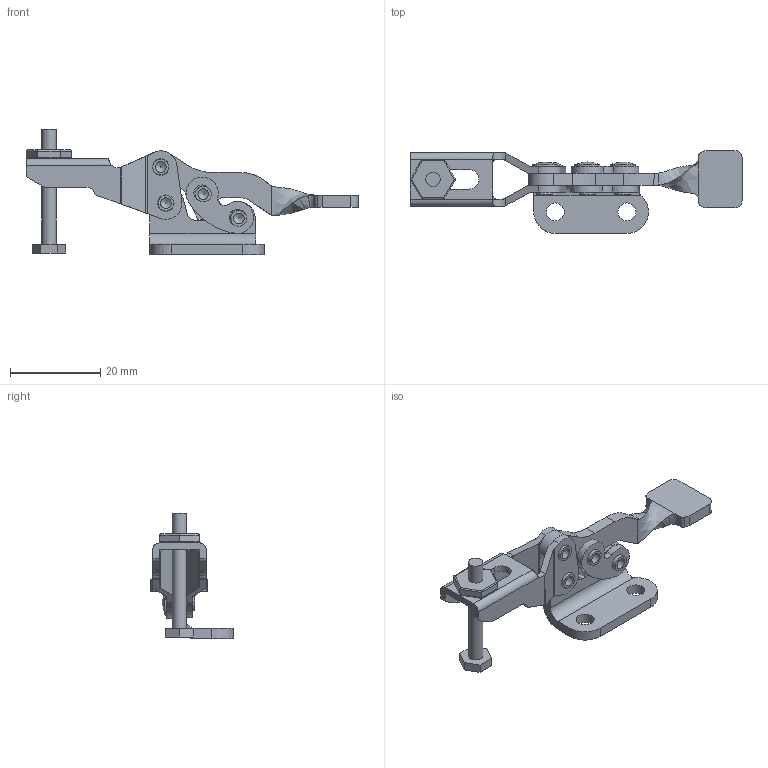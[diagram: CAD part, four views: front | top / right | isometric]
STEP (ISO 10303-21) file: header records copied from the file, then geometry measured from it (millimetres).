
FILE_DESCRIPTION(/* description */ (''),/* implementation_level */ '2;1');
FILE_NAME(/* name */ 'hl-100',/* time_stamp */ '2004-12-16T11:06:28-05:00',/* author */ (''),/* organization */ (''),/* preprocessor_version */ 'ST-DEVELOPER v9',/* originating_system */ 'EDS PLM SOLUTIONS - UNIGRAPHICS NX 2.0',/* authorisation */ '');
FILE_SCHEMA (('AUTOMOTIVE_DESIGN { 1 0 10303 214 0 1 1 1 }'));
Length unit declared in the file: inch
Products named in the file (1): mfurAEE3toa3
Bounding box: 73.48 x 18.33 x 27.71 mm (x, y, z)
Volume: 3834.3 mm3; surface area: 5608.8 mm2
Topology: 11 solids, 11 shells, 212 faces, 528 edges, 346 vertices
Faces by surface type: cylinder 95, plane 91, bspline 10, torus 8, sphere 4, cone 4
Full cylindrical faces by diameter (mm): 2.381 x4, 3.175 x2, 3.48 x4, 3.632 x12, 3.988 x2
Entity records: 7050 total; most frequent: CARTESIAN_POINT 1977, DIRECTION 1039, ORIENTED_EDGE 966, EDGE_CURVE 483, AXIS2_PLACEMENT_3D 396, VERTEX_POINT 338, EDGE_LOOP 289, LINE 247
